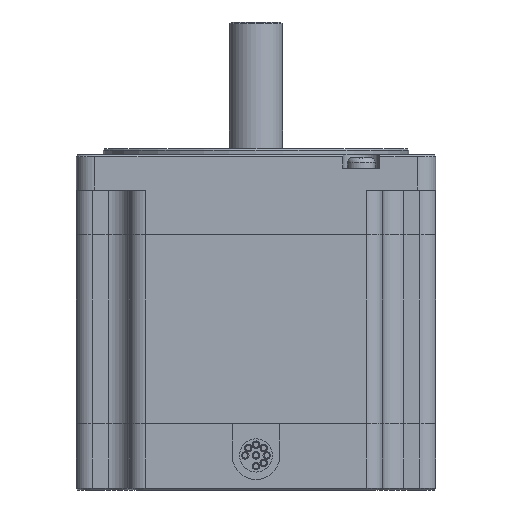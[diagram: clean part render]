
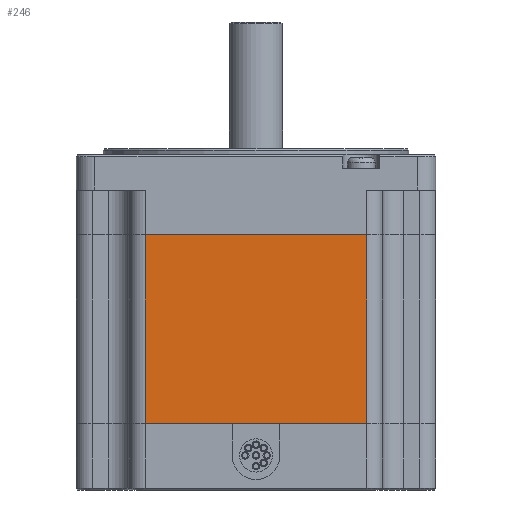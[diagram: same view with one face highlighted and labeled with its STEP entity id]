
A CAD part, front view. The second image highlights one B-rep face of the part: STEP entity #246.
In plain terms, the highlighted planar face has unit normal (0, -1, 0).
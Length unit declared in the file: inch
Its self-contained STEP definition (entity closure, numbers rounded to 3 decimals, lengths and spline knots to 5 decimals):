
#133 = VERTEX_POINT ( 'NONE', #722 ) ;
#227 = ORIENTED_EDGE ( 'NONE', *, *, #582, .T. ) ;
#232 = EDGE_CURVE ( 'NONE', #249, #594, #13543, .T. ) ;
#233 = ORIENTED_EDGE ( 'NONE', *, *, #239, .T. ) ;
#239 = EDGE_CURVE ( 'NONE', #133, #606, #13581, .T. ) ;
#244 = ORIENTED_EDGE ( 'NONE', *, *, #252, .F. ) ;
#246 = ADVANCED_FACE ( 'NONE', ( #13575 ), #4013, .F. ) ;
#247 = EDGE_LOOP ( 'NONE', ( #227, #254, #244, #233 ) ) ;
#249 = VERTEX_POINT ( 'NONE', #13589 ) ;
#252 = EDGE_CURVE ( 'NONE', #133, #249, #17502, .T. ) ;
#254 = ORIENTED_EDGE ( 'NONE', *, *, #232, .F. ) ;
#582 = EDGE_CURVE ( 'NONE', #606, #594, #14434, .T. ) ;
#594 = VERTEX_POINT ( 'NONE', #14426 ) ;
#606 = VERTEX_POINT ( 'NONE', #14481 ) ;
#712 = VECTOR ( 'NONE', #720, 39.37008 ) ;
#720 = DIRECTION ( 'NONE',  ( -1., 0., 0. ) ) ;
#722 = CARTESIAN_POINT ( 'NONE',  ( 1.04, -1.689, -2.525 ) ) ;
#4012 = AXIS2_PLACEMENT_3D ( 'NONE', #4016, #4015, #4030 ) ;
#4013 = PLANE ( 'NONE',  #4012 ) ;
#4015 = DIRECTION ( 'NONE',  ( 0., 1., 0. ) ) ;
#4016 = CARTESIAN_POINT ( 'NONE',  ( 1.04, -1.689, -2.525 ) ) ;
#4030 = DIRECTION ( 'NONE',  ( -1., 0., 0. ) ) ;
#13540 = DIRECTION ( 'NONE',  ( 0., 0., 1. ) ) ;
#13541 = VECTOR ( 'NONE', #13540, 39.37008 ) ;
#13542 = CARTESIAN_POINT ( 'NONE',  ( -1.04, -1.689, -2.525 ) ) ;
#13543 = LINE ( 'NONE', #13542, #13541 ) ;
#13575 = FACE_OUTER_BOUND ( 'NONE', #247, .T. ) ;
#13576 = DIRECTION ( 'NONE',  ( 0., 0., 1. ) ) ;
#13577 = VECTOR ( 'NONE', #13576, 39.37008 ) ;
#13580 = CARTESIAN_POINT ( 'NONE',  ( 1.04, -1.689, -2.525 ) ) ;
#13581 = LINE ( 'NONE', #13580, #13577 ) ;
#13589 = CARTESIAN_POINT ( 'NONE',  ( -1.04, -1.689, -2.525 ) ) ;
#14426 = CARTESIAN_POINT ( 'NONE',  ( -1.04, -1.689, -0.75 ) ) ;
#14431 = DIRECTION ( 'NONE',  ( -1., 0., 0. ) ) ;
#14432 = VECTOR ( 'NONE', #14431, 39.37008 ) ;
#14433 = CARTESIAN_POINT ( 'NONE',  ( 1.04, -1.689, -0.75 ) ) ;
#14434 = LINE ( 'NONE', #14433, #14432 ) ;
#14481 = CARTESIAN_POINT ( 'NONE',  ( 1.04, -1.689, -0.75 ) ) ;
#17501 = CARTESIAN_POINT ( 'NONE',  ( 1.04, -1.689, -2.525 ) ) ;
#17502 = LINE ( 'NONE', #17501, #712 ) ;
